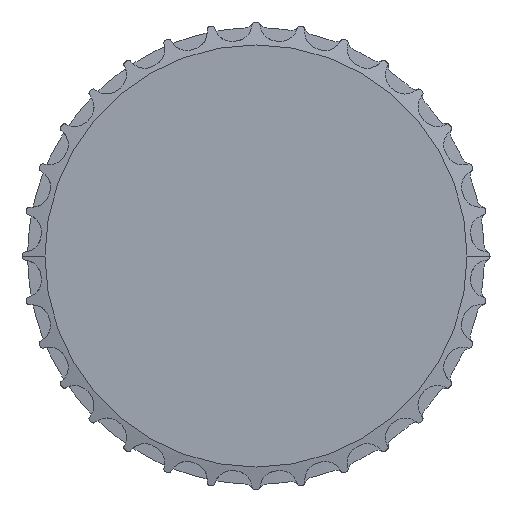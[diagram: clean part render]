
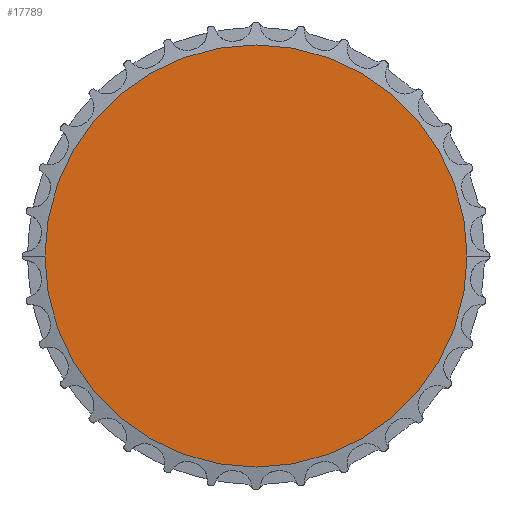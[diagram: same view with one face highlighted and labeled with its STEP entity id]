
A CAD part, front view. The second image highlights one B-rep face of the part: STEP entity #17789.
In plain terms, the highlighted planar face has unit normal (0, -1, 0).
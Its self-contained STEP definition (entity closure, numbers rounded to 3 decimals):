
#15=CARTESIAN_POINT('',(0.,-12.5,0.));
#16=DIRECTION('',(0.,1.,0.));
#17=DIRECTION('',(1.,0.,0.));
#18=AXIS2_PLACEMENT_3D('',#15,#16,#17);
#24=CARTESIAN_POINT('',(0.,-12.5,0.));
#25=DIRECTION('',(0.,1.,0.));
#26=DIRECTION('',(-1.,0.,0.));
#27=AXIS2_PLACEMENT_3D('',#24,#25,#26);
#16986=CARTESIAN_POINT('',(36.85,-12.5,0.));
#16987=CARTESIAN_POINT('',(-36.85,-12.5,0.));
#16988=VERTEX_POINT('',#16986);
#16989=VERTEX_POINT('',#16987);
#17778=CARTESIAN_POINT('',(0.,-12.5,0.));
#17779=DIRECTION('',(0.,1.,0.));
#17780=DIRECTION('',(1.,0.,0.));
#17781=AXIS2_PLACEMENT_3D('',#17778,#17779,#17780);
#17782=PLANE('',#17781);
#17784=ORIENTED_EDGE('',*,*,#17783,.T.);
#17786=ORIENTED_EDGE('',*,*,#17785,.T.);
#17787=EDGE_LOOP('',(#17784,#17786));
#17788=FACE_OUTER_BOUND('',#17787,.F.);
#19=CIRCLE('',#18,36.85);
#28=CIRCLE('',#27,36.85);
#17783=EDGE_CURVE('',#16988,#16989,#19,.T.);
#17785=EDGE_CURVE('',#16989,#16988,#28,.T.);
#17789=ADVANCED_FACE('',(#17788),#17782,.F.);
